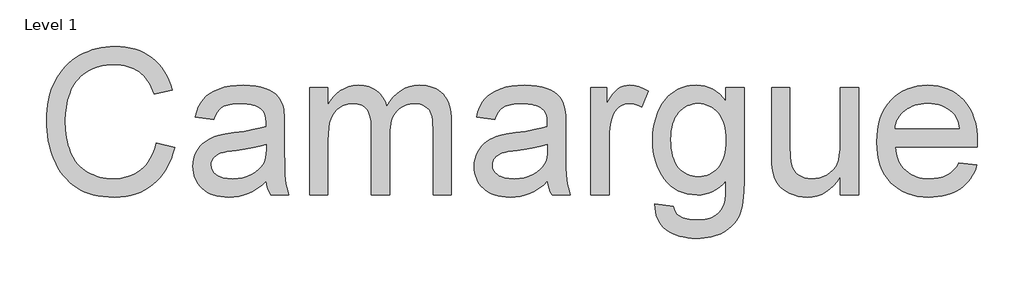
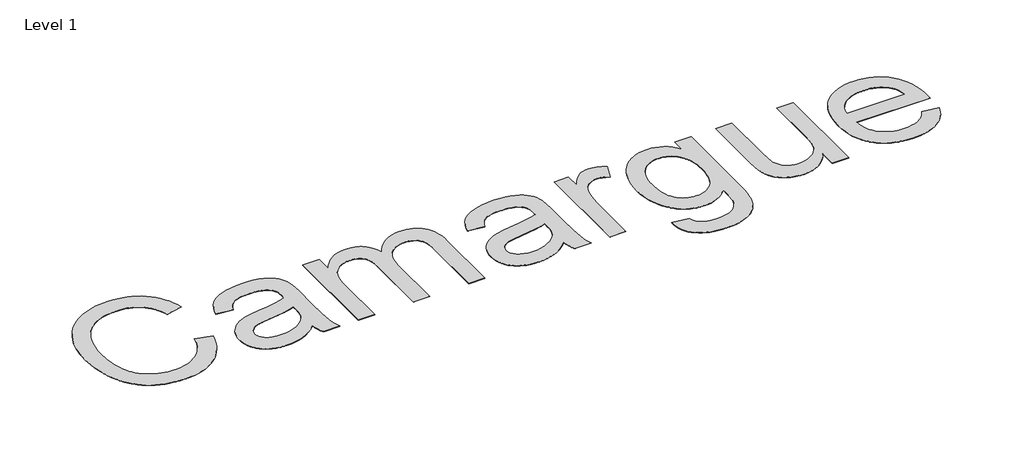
# One storey, part 45 of 69: 1 proxy.
"""IFC4 building model written with IfcOpenShell, lengths in millimetres."""

import ifcopenshell
import ifcopenshell.guid

model = None  # the IFC model being written
_history = None  # IfcOwnerHistory: only IFC2X3 demands one
_inside = {}  # id of a spatial element -> (the spatial element, [elements in it])
_under = {}  # id of a project, library or spatial element -> (it, [spatial elements below it])
_declared = {}  # id of a project -> (the project, [libraries it declares])
_typed = {}  # id of a type object -> (the type object, [elements of that type])
_made_of = {}  # id of a material, layer set ... -> (it, [elements and type objects made of it])


def new_model(schema):
    """Start an empty IFC model of exactly this schema.

    Asked for "IFC4X3", IfcOpenShell would pick the latest addendum, in which some entities
    have other attributes; the version numbers below select the first issue.
    IFC2X3 requires an IfcOwnerHistory on every rooted entity: one is made here for all.
    """
    global model, _history
    if schema == "IFC4X3":
        model = ifcopenshell.file(schema_version=(4, 3, 0, 0))
    else:
        model = ifcopenshell.file(schema=schema)
    _inside.clear()
    _under.clear()
    _declared.clear()
    _typed.clear()
    _made_of.clear()
    _history = None
    if model.schema == "IFC2X3":
        org = make("IfcOrganization", Name="unknown")
        user = make(
            "IfcPersonAndOrganization",
            ThePerson=make("IfcPerson", FamilyName="unknown"),
            TheOrganization=org,
        )
        app = make(
            "IfcApplication",
            ApplicationDeveloper=org,
            Version="unknown",
            ApplicationFullName="unknown",
            ApplicationIdentifier="unknown",
        )
        _history = make(
            "IfcOwnerHistory",
            OwningUser=user,
            OwningApplication=app,
            ChangeAction="ADDED",
            CreationDate=0,
        )
    return model


def make(cls, **values):
    """One entity of the class cls with the attributes given. An attribute that is None is left unset."""
    return model.create_entity(
        cls, **{name: value for name, value in values.items() if value is not None}
    )


def rooted(cls, **values):
    """An entity with a GlobalId (a new one), such as an element, a storey or a relation."""
    return make(cls, GlobalId=ifcopenshell.guid.new(), OwnerHistory=_history, **values)


def si_unit(unit_type, name, prefix=None):
    """IfcSIUnit, for example si_unit("LENGTHUNIT", "METRE", prefix="MILLI")."""
    return make("IfcSIUnit", UnitType=unit_type, Prefix=prefix, Name=name)


def assignment(units):
    """IfcUnitAssignment: the units of a project."""
    return None if units is None else make("IfcUnitAssignment", Units=units)


def point(xyz):
    """IfcCartesianPoint."""
    return None if xyz is None else make("IfcCartesianPoint", Coordinates=xyz)


def direction(xyz):
    """IfcDirection."""
    return None if xyz is None else make("IfcDirection", DirectionRatios=xyz)


def frame(location, z_axis=None, x_axis=None):
    """IfcAxis2Placement3D, a coordinate frame: its origin and axes. An axis left out is left unset."""
    return make(
        "IfcAxis2Placement3D",
        Location=point(location),
        Axis=direction(z_axis),
        RefDirection=direction(x_axis),
    )


def origin():
    """The frame at (0, 0, 0) with its axes left unset."""
    return frame((0.0, 0.0, 0.0))


def origin_with_axes():
    """The frame at (0, 0, 0) with the z axis (0, 0, 1) and the x axis (1, 0, 0) written out."""
    return frame((0.0, 0.0, 0.0), z_axis=(0.0, 0.0, 1.0), x_axis=(1.0, 0.0, 0.0))


def place(relative_to, where):
    """IfcLocalPlacement: puts the frame where relative to a parent placement (None: the world)."""
    return make(
        "IfcLocalPlacement", PlacementRelTo=relative_to, RelativePlacement=where
    )


def context(
    kind, dimensions, precision=None, world=None, true_north=None, identifier=None
):
    """IfcGeometricRepresentationContext, for example the 3D "Model" context."""
    return make(
        "IfcGeometricRepresentationContext",
        ContextIdentifier=identifier,
        ContextType=kind,
        CoordinateSpaceDimension=dimensions,
        Precision=precision,
        WorldCoordinateSystem=world,
        TrueNorth=true_north,
    )


def project(units=None, contexts=None):
    """IfcProject with its units and contexts."""
    return rooted(
        "IfcProject",
        Name="project",
        RepresentationContexts=contexts,
        UnitsInContext=assignment(units),
    )


def spatial(cls, under=None, at=None, **own):
    """A site, building, storey or space (cls), placed at a placement, below another one or the project."""
    s = rooted(cls, ObjectPlacement=at, **own)
    if under is not None:
        _under.setdefault(under.id(), (under, []))[1].append(s)
    return s


def polyline(points):
    """IfcPolyline through the points."""
    return make("IfcPolyline", Points=[point(p) for p in points])


def outline(outer, holes=None, kind="AREA"):
    """IfcArbitraryClosedProfileDef: a profile drawn as a closed curve; with holes, ...WithVoids."""
    if holes is None:
        return make("IfcArbitraryClosedProfileDef", ProfileType=kind, OuterCurve=outer)
    return make(
        "IfcArbitraryProfileDefWithVoids",
        ProfileType=kind,
        OuterCurve=outer,
        InnerCurves=holes,
    )


def extrude(swept, where, along, depth):
    """IfcExtrudedAreaSolid: the profile swept, set in the frame where, extruded along a direction by depth."""
    return make(
        "IfcExtrudedAreaSolid",
        SweptArea=swept,
        Position=where,
        ExtrudedDirection=direction(along),
        Depth=depth,
    )


def shape(context_of_items, identifier, shape_type, items):
    """IfcShapeRepresentation: the items that make up one representation, for example the "Body"."""
    return make(
        "IfcShapeRepresentation",
        ContextOfItems=context_of_items,
        RepresentationIdentifier=identifier,
        RepresentationType=shape_type,
        Items=items,
    )


def made_of(thing, what):
    """Note that an element or type object is made of a material, layer set ...; save() writes the relation."""
    if what is not None:
        _made_of.setdefault(what.id(), (what, []))[1].append(thing)
    return thing


def element(
    cls,
    number,
    at=None,
    inside=None,
    cuts=None,
    type_object=None,
    material=None,
    context=None,
    identifier="Body",
    shape_type=None,
    held_by="IfcProductDefinitionShape",
    body=None,
    shapes=None,
    **own,
):
    """One element of the class cls, such as IfcWall. Its Tag is "e" and its number.

    at: its placement. inside: the storey or other place that contains it. cuts: it is an
    opening in that element (IfcRelVoidsElement). A single representation is given by context,
    identifier, shape_type and body (its items); several are given by shapes. held_by: the class
    of the entity that holds the representations. save() writes the other relations.
    """
    e = rooted(cls, Tag="e%d" % number, ObjectPlacement=at, **own)
    if body is not None:
        shapes = [shape(context, identifier, shape_type, body)]
    if shapes is not None:
        e.Representation = make(held_by, Representations=shapes)
    if inside is not None:
        _inside.setdefault(inside.id(), (inside, []))[1].append(e)
    if cuts is not None:
        rooted(
            "IfcRelVoidsElement", RelatingBuildingElement=cuts, RelatedOpeningElement=e
        )
    if type_object is not None:
        _typed.setdefault(type_object.id(), (type_object, []))[1].append(e)
    return made_of(e, material)


def aggregate(whole, parts):
    """IfcRelAggregates: a whole, such as a stair, and the parts it consists of."""
    return rooted("IfcRelAggregates", RelatingObject=whole, RelatedObjects=parts)


def save(model, path):
    """Write the relations noted so far, then the file.

    IfcRelAggregates (storeys below a building ...), IfcRelContainedInSpatialStructure (elements
    in a storey), IfcRelDefinesByType, IfcRelAssociatesMaterial and IfcRelDeclares: one each for
    every whole, place, type object, material and project.
    """
    for whole, parts in _under.values():
        aggregate(whole, parts)
    for where, things in _inside.values():
        rooted(
            "IfcRelContainedInSpatialStructure",
            RelatedElements=things,
            RelatingStructure=where,
        )
    for kind, things in _typed.values():
        rooted("IfcRelDefinesByType", RelatedObjects=things, RelatingType=kind)
    for what, things in _made_of.values():
        rooted("IfcRelAssociatesMaterial", RelatedObjects=things, RelatingMaterial=what)
    for by, libraries in _declared.values():
        rooted("IfcRelDeclares", RelatingContext=by, RelatedDefinitions=libraries)
    model.write(path)


model = new_model("IFC4")

# Units and contexts
model_context = context("Model", 3, world=origin())
ifc_project = project(units=[si_unit("LENGTHUNIT", "METRE", prefix="MILLI")], contexts=[model_context])

# Site, building, storey
site = spatial("IfcSite", under=ifc_project)
building = spatial("IfcBuilding", under=site)
storey = spatial("IfcBuildingStorey", under=building, Name="Level 1", Elevation=0.0)

# Proxy
placement = place(None, origin())
element("IfcBuildingElementProxy", 1, Name="2500 mm Arial", ObjectType="2500 mm Arial", at=placement, inside=storey, context=model_context, shape_type="SweptSolid", body=[
    extrude(outline(polyline([(-13949.8281508, 77634.6101856), (-13635.9021816, 77553.6761467), (-13664.3842954, 77452.9828209), (-13698.0205893, 77358.4496025), (-13736.8110632, 77270.0764914), (-13780.7557172, 77187.8634877), (-13829.8545512, 77111.8105914), (-13884.1075652, 77041.9178025), (-13943.5147593, 76978.1851209), (-14008.0761334, 76920.6125467), (-14077.0923285, 76869.5258087), (-14149.8639857, 76825.2506357), (-14226.3911049, 76787.7870279), (-14306.6736861, 76757.1349851), (-14390.7117294, 76733.2945073), (-14478.5052347, 76716.2655947), (-14570.054202, 76706.0482471), (-14665.3586314, 76702.6424645), (-14763.4173856, 76705.2195545), (-14856.7913925, 76712.9508246), (-14945.4806522, 76725.8362747), (-15029.4851645, 76743.8759048), (-15108.8049296, 76767.069715), (-15183.4399474, 76795.4177052), (-15253.3902179, 76828.9198754), (-15318.6557412, 76867.5762257), (-15379.7011597, 76911.1185087), (-15436.9911163, 76959.2784772), (-15490.5256108, 77012.0561311), (-15540.3046433, 77069.4514705), (-15586.3282137, 77131.4644954), (-15628.5963221, 77198.0952057), (-15667.1089685, 77269.3436015), (-15701.8661528, 77345.2096828), (-15732.6906403, 77424.1031263), (-15759.4051961, 77504.4336088), (-15782.0098203, 77586.2011304), (-15800.5045128, 77669.405691), (-15814.8892736, 77754.0472907), (-15825.1641028, 77840.1259294), (-15831.3290003, 77927.6416072), (-15833.3839661, 78016.594324), (-15831.060753, 78112.8280386), (-15824.0911136, 78205.9385884), (-15812.475048, 78295.9259733), (-15796.2125562, 78382.7901933), (-15775.3036381, 78466.5312485), (-15749.7482937, 78547.1491389), (-15719.5465232, 78624.6438644), (-15684.6983264, 78699.015425), (-15645.5677532, 78769.6363138), (-15602.5188536, 78835.8790235), (-15555.5516275, 78897.7435544), (-15504.666075, 78955.2299062), (-15449.862196, 79008.3380792), (-15391.1399905, 79057.0680731), (-15328.4994586, 79101.4198882), (-15261.9406002, 79141.3935242), (-15192.5603552, 79176.8165366), (-15121.4556633, 79207.5164807), (-15048.6265246, 79233.4933565), (-14974.072939, 79254.747164), (-14897.7949066, 79271.2779031), (-14819.7924273, 79283.0855739), (-14740.0655012, 79290.1701764), (-14658.6141282, 79292.5317106), (-14566.9741483, 79289.4756075), (-14479.0608898, 79280.3072984), (-14394.8743525, 79265.0267833), (-14314.4145364, 79243.634062), (-14237.6814416, 79216.1291347), (-14164.6750681, 79182.5120014), (-14095.3954158, 79142.782662), (-14029.8424847, 79096.9411165), (-13968.57193, 79045.5526003), (-13912.1394068, 78989.1823487), (-13860.544915, 78927.8303618), (-13813.7884546, 78861.4966396), (-13771.8700257, 78790.1811819), (-13734.7896283, 78713.883989), (-13702.5472623, 78632.6050607), (-13675.1429277, 78546.344397), (-13989.0688969, 78471.5417247), (-14012.5405346, 78535.5139128), (-14038.50304, 78594.9929588), (-14066.9564131, 78649.9788627), (-14097.9006538, 78700.4716246), (-14131.3357623, 78746.4712444), (-14167.2617383, 78787.9777221), (-14205.6785821, 78824.9910577), (-14246.5862936, 78857.5112513), (-14290.0998358, 78885.8927724), (-14336.334172, 78910.4900907), (-14385.2893021, 78931.3032062), (-14436.9652261, 78948.3321188), (-14491.361944, 78961.5768287), (-14548.4794559, 78971.0373357), (-14608.3177616, 78976.7136399), (-14670.8768613, 78978.6057413), (-14742.7958753, 78976.5076643), (-14811.7066876, 78970.2134333), (-14877.6092981, 78959.7230483), (-14940.503707, 78945.0365093), (-15000.389914, 78926.1538163), (-15057.2679194, 78903.0749692), (-15111.137723, 78875.7999682), (-15161.9993249, 78844.3288131), (-15209.5222061, 78809.322542), (-15253.3758475, 78771.4421928), (-15293.5602493, 78730.6877655), (-15330.0754114, 78687.0592602), (-15362.9213338, 78640.5566767), (-15392.0980166, 78591.1800152), (-15417.6054596, 78538.9292756), (-15439.4436629, 78483.8044578), (-15474.449934, 78369.7993604), (-15499.4544134, 78254.031495), (-15514.457101, 78136.5008618), (-15519.4579969, 78017.2074606), (-15513.537396, 77867.2955476), (-15506.1366449, 77796.018411), (-15495.7755934, 77727.1938211), (-15482.4542415, 77660.8217778), (-15466.1725891, 77596.9022811), (-15446.9306363, 77535.4353311), (-15424.7283831, 77476.4209277), (-15399.3981749, 77420.4578372), (-15370.7723572, 77368.1448259), (-15338.8509299, 77319.4818938), (-15303.633893, 77274.4690408), (-15265.1212467, 77233.106267), (-15223.3129908, 77195.3935723), (-15178.2091253, 77161.3309569), (-15129.8096503, 77130.9184206), (-15079.2498266, 77104.1176424), (-15027.6649151, 77080.8903013), (-14975.0549157, 77061.2363973), (-14921.4198285, 77045.1559304), (-14866.7596534, 77032.6489006), (-14811.0743904, 77023.7153079), (-14754.3640396, 77018.3551523), (-14696.628601, 77016.5684337), (-14627.0232198, 77019.0018199), (-14560.1482129, 77026.3019782), (-14496.0035801, 77038.4689088), (-14434.5893215, 77055.5026116), (-14375.9054371, 77077.4030866), (-14319.9519269, 77104.1703338), (-14266.7287908, 77135.8043533), (-14216.236029, 77172.305145), (-14169.0867779, 77213.5960669), (-14125.8941744, 77259.6004768), (-14086.6582184, 77310.3183748), (-14051.3789099, 77365.7497608), (-14020.0562488, 77425.8946349), (-13992.6902353, 77490.7529971), (-13969.2808693, 77560.3248473), (-13949.8281508, 77634.6101856)])), origin_with_axes(), (0.0, 0.0, 1.0), 5.0),
    extrude(outline(polyline([(-12066.2723355, 76977.3276876), (-12140.7109579, 76907.4684295), (-12216.2608906, 76848.7222734), (-12292.9221334, 76801.0892193), (-12370.6946865, 76764.569267), (-12450.4599337, 76737.4762909), (-12533.0992589, 76718.1241652), (-12618.6126623, 76706.5128897), (-12707.0001437, 76702.6424645), (-12779.038911, 76704.9704678), (-12846.7761414, 76711.9544775), (-12910.2118349, 76723.5944938), (-12969.3459916, 76739.8905165), (-13024.1786113, 76760.8425458), (-13074.7096942, 76786.4505815), (-13120.9392403, 76816.7146238), (-13162.8672494, 76851.6346726), (-13200.1584126, 76890.1760597), (-13232.4774207, 76931.3041171), (-13259.8242737, 76975.0188449), (-13282.1989716, 77021.3202428), (-13299.6015144, 77070.2083111), (-13312.0319022, 77121.6830497), (-13319.4901348, 77175.7444585), (-13321.9762123, 77232.3925376), (-13318.2207503, 77298.9561861), (-13306.9543642, 77362.5307934), (-13288.177054, 77423.1163595), (-13261.8888198, 77480.7128843), (-13229.4883795, 77534.0557736), (-13192.3744511, 77581.880433), (-13150.5470347, 77624.1868624), (-13104.0061302, 77660.975062), (-13053.5948006, 77692.9348103), (-13000.1561086, 77720.7558862), (-12943.6900545, 77744.4382896), (-12884.1966381, 77763.9820206), (-12771.2262087, 77788.0476345), (-12612.5770983, 77811.1935433), (-12439.9024868, 77834.9525888), (-12291.6000575, 77860.8576127), (-12167.6698104, 77888.9086148), (-12068.1117455, 77919.1055952), (-12066.2723355, 77989.0031743), (-12071.6756023, 78065.1087621), (-12078.4296858, 78098.6205126), (-12087.8854027, 78129.1049008), (-12100.042753, 78156.5619268), (-12114.9017367, 78180.9915906), (-12132.4623538, 78202.393892), (-12152.7246043, 78220.7688313), (-12183.630524, 78242.0370091), (-12218.1003006, 78260.4694299), (-12256.1339339, 78276.0660937), (-12297.7314241, 78288.8270004), (-12342.8927711, 78298.7521501), (-12391.617975, 78305.8415427), (-12499.7599531, 78311.5130568), (-12600.3143651, 78307.7384342), (-12686.766634, 78296.4145665), (-12759.1167597, 78277.5414538), (-12790.0035189, 78265.2739305), (-12817.3647423, 78251.1190959), (-12842.1297151, 78234.559616), (-12865.2277227, 78215.0781567), (-12906.422842, 78167.3492999), (-12940.9501001, 78107.9325256), (-12968.809497, 78036.8278337), (-13282.7354662, 78076.0685798), (-13258.842297, 78166.506237), (-13228.2429457, 78247.7468443), (-13190.9374121, 78319.7904017), (-13146.9256963, 78382.6369092), (-13094.3109068, 78437.5509612), (-13031.196152, 78485.797152), (-12957.5814319, 78527.3754816), (-12873.4667466, 78562.2859501), (-12780.5573823, 78589.9154208), (-12680.5586253, 78609.650757), (-12573.4704758, 78621.4919587), (-12459.2929337, 78625.439026), (-12347.6829013, 78621.9518112), (-12247.0710077, 78611.490167), (-12157.4572529, 78594.0540933), (-12078.841637, 78569.64359), (-12010.5727021, 78539.9639437), (-11951.9989907, 78506.7204405), (-11903.1205027, 78469.9130804), (-11863.9372381, 78429.5418635), (-11832.169095, 78384.6104428), (-11805.5359714, 78334.122471), (-11784.0378673, 78278.0779483), (-11767.6747827, 78216.4768747), (-11760.9686005, 78169.4186361), (-11756.1784704, 78107.9516861), (-11752.3463663, 77941.7916516), (-11752.3463663, 77551.2236001), (-11748.360978, 77211.0093966), (-11743.3792426, 77091.5435508), (-11736.4048131, 77005.8385422), (-11726.5179845, 76937.7228915), (-11712.7990518, 76871.0251194), (-11695.2480149, 76805.7452258), (-11673.864874, 76741.8832107), (-11987.7908432, 76741.8832107), (-12015.6885611, 76794.306395), (-12038.0680492, 76851.0215359), (-12054.9293073, 76912.0286334), (-12066.2723355, 76977.3276876)]), holes=[polyline([(-12066.2723355, 77605.179626), (-12161.1552334, 77578.0100078), (-12277.191346, 77552.9097259), (-12414.3806734, 77529.8787801), (-12572.7232155, 77508.9171706), (-12735.5876405, 77484.8515568), (-12796.154046, 77471.7840817), (-12842.8099136, 77458.026828), (-12880.2304103, 77442.27688), (-12913.0907031, 77423.2313226), (-12941.390792, 77400.8901556), (-12965.130677, 77375.253379), (-12983.9079872, 77347.2406979), (-12997.3203516, 77317.7718173), (-13005.3677702, 77286.8467371), (-13008.0502431, 77254.4654573), (-13002.2062844, 77205.6827719), (-12984.674408, 77161.115401), (-12955.4546141, 77120.7633447), (-12914.5469027, 77084.6266028), (-12889.8058805, 77068.6754695), (-12862.3344841, 77054.8511539), (-12799.2005688, 77033.582976), (-12725.1451567, 77020.8220693), (-12640.168248, 77016.5684337), (-12553.4094108, 77021.2627613), (-12471.5556668, 77035.3457439), (-12394.6070162, 77058.8173816), (-12322.5634588, 77091.6776744), (-12257.570973, 77131.2058284), (-12201.775537, 77174.6810496), (-12155.177151, 77222.103338), (-12117.7758148, 77273.4726937), (-12096.0477845, 77319.4579431), (-12080.5277628, 77375.253379), (-12071.2157498, 77440.8590015), (-12068.1117455, 77516.2748105), (-12066.2723355, 77605.179626)])]), origin_with_axes(), (0.0, 0.0, 1.0), 5.0),
    extrude(outline(polyline([(-11320.6981586, 76741.8832107), (-11320.6981586, 78586.1982798), (-11006.7721894, 78586.1982798), (-11006.7721894, 78282.6956338), (-10962.9329183, 78356.1762302), (-10912.3491439, 78422.1075816), (-10855.0208664, 78480.4896878), (-10790.9480855, 78531.3225489), (-10721.1654696, 78572.4985076), (-10646.7076866, 78601.9099067), (-10567.5747366, 78619.5567462), (-10483.7666196, 78625.439026), (-10392.1410101, 78619.441783), (-10349.5759137, 78611.9452294), (-10309.175956, 78601.4500542), (-10270.9411372, 78587.9562576), (-10234.8714572, 78571.4638395), (-10200.966916, 78551.9727999), (-10169.2275137, 78529.4831389), (-10139.7011515, 78504.2918445), (-10112.4357307, 78476.6959047), (-10087.4312513, 78446.6953196), (-10064.6877134, 78414.2900892), (-10025.9834618, 78342.2656923), (-9996.3229759, 78260.6227141), (-9941.1215162, 78346.1265372), (-9881.896347, 78420.2298505), (-9818.6474686, 78482.9326541), (-9751.3748808, 78534.234948), (-9680.0785837, 78574.1367321), (-9604.7585773, 78602.6380065), (-9525.4148616, 78619.7387711), (-9442.0474365, 78625.439026), (-9377.2896671, 78623.0679116), (-9316.3735821, 78615.9545683), (-9259.2991814, 78604.0989962), (-9206.0664651, 78587.5011952), (-9156.6754331, 78566.1611654), (-9111.1260856, 78540.0789068), (-9069.4184224, 78509.2544193), (-9031.5524436, 78473.687703), (-8997.853878, 78433.1871526), (-8968.6484545, 78387.561163), (-8943.9361731, 78336.8097341), (-8923.7170338, 78280.9328659), (-8907.9910365, 78219.9305585), (-8896.7581813, 78153.8028119), (-8890.0184682, 78082.5496259), (-8887.7718971, 78006.1710008), (-8887.7718971, 76741.8832107), (-9201.6978664, 76741.8832107), (-9201.6978664, 77871.2809359), (-9203.5181158, 77955.9512763), (-9208.9788642, 78027.8607101), (-9218.0801115, 78087.0092371), (-9230.8218577, 78133.3968574), (-9248.3345735, 78171.4688118), (-9271.7487296, 78205.6703411), (-9301.0643261, 78236.0014451), (-9336.2813629, 78262.4621241), (-9376.1160852, 78283.9219071), (-9419.2847381, 78299.2503236), (-9465.7873216, 78308.4473735), (-9515.6238356, 78311.5130568), (-9561.0869608, 78309.5491034), (-9604.5861326, 78303.6572433), (-9646.1213511, 78293.8374765), (-9685.6926163, 78280.089803), (-9723.299928, 78262.4142228), (-9758.9432865, 78240.8107358), (-9792.6226915, 78215.2793421), (-9824.3381432, 78185.8200417), (-9853.150776, 78152.0304637), (-9878.1217245, 78113.5082371), (-9899.2509885, 78070.2533619), (-9916.5385682, 78022.2658381), (-9929.9844636, 77969.5456657), (-9939.5886745, 77912.0928447), (-9945.3512011, 77849.9073752), (-9947.2720433, 77782.989257), (-9947.2720433, 76741.8832107), (-10261.1980125, 76741.8832107), (-10261.1980125, 77906.2297254), (-10265.7390559, 78001.3425496), (-10279.362186, 78083.7327881), (-10302.0674029, 78153.4004409), (-10316.8257939, 78183.4632977), (-10333.8547065, 78210.3455081), (-10353.4702895, 78234.0566523), (-10375.9886913, 78254.6063106), (-10401.409912, 78271.9944831), (-10429.7339515, 78286.2211696), (-10460.9608099, 78297.2863702), (-10495.0904872, 78305.190085), (-10532.1229834, 78309.9323138), (-10572.0582984, 78311.5130568), (-10633.7168536, 78307.2977422), (-10692.9995043, 78294.6517986), (-10749.9062504, 78273.575226), (-10804.437092, 78244.0680243), (-10854.1011614, 78206.4367619), (-10896.4075908, 78160.9880071), (-10931.3563804, 78107.7217599), (-10958.94753, 78046.6380202), (-10979.8708185, 77974.4794997), (-10994.8160245, 77887.9889098), (-11003.7831482, 77787.1662505), (-11006.7721894, 77672.0115218), (-11006.7721894, 76741.8832107), (-11320.6981586, 76741.8832107)])), origin_with_axes(), (0.0, 0.0, 1.0), 5.0),
    extrude(outline(polyline([(-7239.6605588, 76977.3276876), (-7314.0991812, 76907.4684295), (-7389.6491139, 76848.7222734), (-7466.3103567, 76801.0892193), (-7544.0829098, 76764.569267), (-7623.8481569, 76737.4762909), (-7706.4874822, 76718.1241652), (-7792.0008856, 76706.5128897), (-7880.388367, 76702.6424645), (-7952.4271343, 76704.9704678), (-8020.1643647, 76711.9544775), (-8083.6000582, 76723.5944938), (-8142.7342148, 76739.8905165), (-8197.5668346, 76760.8425458), (-8248.0979175, 76786.4505815), (-8294.3274636, 76816.7146238), (-8336.2554727, 76851.6346726), (-8373.5466359, 76890.1760597), (-8405.865644, 76931.3041171), (-8433.212497, 76975.0188449), (-8455.5871949, 77021.3202428), (-8472.9897377, 77070.2083111), (-8485.4201254, 77121.6830497), (-8492.8783581, 77175.7444585), (-8495.3644356, 77232.3925376), (-8491.6089736, 77298.9561861), (-8480.3425875, 77362.5307934), (-8461.5652773, 77423.1163595), (-8435.2770431, 77480.7128843), (-8402.8766028, 77534.0557736), (-8365.7626744, 77581.880433), (-8323.935258, 77624.1868624), (-8277.3943535, 77660.975062), (-8226.9830238, 77692.9348103), (-8173.5443319, 77720.7558862), (-8117.0782778, 77744.4382896), (-8057.5848614, 77763.9820206), (-7944.614432, 77788.0476345), (-7785.9653216, 77811.1935433), (-7613.2907101, 77834.9525888), (-7464.9882808, 77860.8576127), (-7341.0580337, 77888.9086148), (-7241.4999687, 77919.1055952), (-7239.6605588, 77989.0031743), (-7245.0638256, 78065.1087621), (-7251.8179091, 78098.6205126), (-7261.273626, 78129.1049008), (-7273.4309763, 78156.5619268), (-7288.28996, 78180.9915906), (-7305.8505771, 78202.393892), (-7326.1128276, 78220.7688313), (-7357.0187473, 78242.0370091), (-7391.4885239, 78260.4694299), (-7429.5221572, 78276.0660937), (-7471.1196474, 78288.8270004), (-7516.2809944, 78298.7521501), (-7565.0061982, 78305.8415427), (-7673.1481764, 78311.5130568), (-7773.7025884, 78307.7384342), (-7860.1548573, 78296.4145665), (-7932.504983, 78277.5414538), (-7963.3917422, 78265.2739305), (-7990.7529656, 78251.1190959), (-8015.5179384, 78234.559616), (-8038.615946, 78215.0781567), (-8079.8110652, 78167.3492999), (-8114.3383233, 78107.9325256), (-8142.1977203, 78036.8278337), (-8456.1236895, 78076.0685798), (-8432.2305203, 78166.506237), (-8401.6311689, 78247.7468443), (-8364.3256354, 78319.7904017), (-8320.3139196, 78382.6369092), (-8267.6991301, 78437.5509612), (-8204.5843753, 78485.797152), (-8130.9696552, 78527.3754816), (-8046.8549698, 78562.2859501), (-7953.9456055, 78589.9154208), (-7853.9468486, 78609.650757), (-7746.8586991, 78621.4919587), (-7632.6811569, 78625.439026), (-7521.0711245, 78621.9518112), (-7420.459231, 78611.490167), (-7330.8454762, 78594.0540933), (-7252.2298603, 78569.64359), (-7183.9609254, 78539.9639437), (-7125.387214, 78506.7204405), (-7076.508726, 78469.9130804), (-7037.3254614, 78429.5418635), (-7005.5573183, 78384.6104428), (-6978.9241947, 78334.122471), (-6957.4260906, 78278.0779483), (-6941.063006, 78216.4768747), (-6934.3568238, 78169.4186361), (-6929.5666937, 78107.9516861), (-6925.7345895, 77941.7916516), (-6925.7345895, 77551.2236001), (-6921.7492013, 77211.0093966), (-6916.7674659, 77091.5435508), (-6909.7930364, 77005.8385422), (-6899.9062078, 76937.7228915), (-6886.1872751, 76871.0251194), (-6868.6362382, 76805.7452258), (-6847.2530972, 76741.8832107), (-7161.1790665, 76741.8832107), (-7189.0767844, 76794.306395), (-7211.4562725, 76851.0215359), (-7228.3175306, 76912.0286334), (-7239.6605588, 76977.3276876)]), holes=[polyline([(-7239.6605588, 77605.179626), (-7334.5434567, 77578.0100078), (-7450.5795693, 77552.9097259), (-7587.7688967, 77529.8787801), (-7746.1114388, 77508.9171706), (-7908.9758637, 77484.8515568), (-7969.5422693, 77471.7840817), (-8016.1981369, 77458.026828), (-8053.6186336, 77442.27688), (-8086.4789264, 77423.2313226), (-8114.7790153, 77400.8901556), (-8138.5189003, 77375.253379), (-8157.2962105, 77347.2406979), (-8170.7085749, 77317.7718173), (-8178.7559935, 77286.8467371), (-8181.4384664, 77254.4654573), (-8175.5945076, 77205.6827719), (-8158.0626313, 77161.115401), (-8128.8428374, 77120.7633447), (-8087.935126, 77084.6266028), (-8063.1941038, 77068.6754695), (-8035.7227074, 77054.8511539), (-7972.5887921, 77033.582976), (-7898.53338, 77020.8220693), (-7813.5564712, 77016.5684337), (-7726.797634, 77021.2627613), (-7644.9438901, 77035.3457439), (-7567.9952395, 77058.8173816), (-7495.9516821, 77091.6776744), (-7430.9591962, 77131.2058284), (-7375.1637603, 77174.6810496), (-7328.5653743, 77222.103338), (-7291.1640381, 77273.4726937), (-7269.4360077, 77319.4579431), (-7253.9159861, 77375.253379), (-7244.6039731, 77440.8590015), (-7241.4999687, 77516.2748105), (-7239.6605588, 77605.179626)])]), origin_with_axes(), (0.0, 0.0, 1.0), 5.0),
    extrude(outline(polyline([(-6494.0863819, 76741.8832107), (-6494.0863819, 78586.1982798), (-6219.4011588, 78586.1982798), (-6219.4011588, 78313.3524667), (-6167.6677532, 78400.5711564), (-6117.9270418, 78471.5417247), (-6070.1790245, 78526.2641714), (-6024.4237014, 78564.7384968), (-5978.5917361, 78591.2949783), (-5930.6137926, 78610.2638937), (-5880.4898707, 78621.6452429), (-5828.2199706, 78625.439026), (-5750.351615, 78619.3843015), (-5671.8701226, 78601.220128), (-5592.7754937, 78570.9465054), (-5513.0677281, 78528.5634339), (-5617.9140967, 78247.1337076), (-5673.096396, 78275.2996729), (-5728.2786952, 78295.4182195), (-5783.4609945, 78307.4893474), (-5838.6432938, 78311.5130568), (-5886.755361, 78307.6426316), (-5932.3765605, 78296.0313561), (-5975.5068923, 78276.6792303), (-6016.1463565, 78249.5862542), (-6052.7621113, 78215.6338118), (-6083.8213152, 78175.7032869), (-6109.3239681, 78129.7946796), (-6129.27007, 78077.9079898), (-6151.5345949, 77992.2221418), (-6167.437827, 77902.5509055), (-6176.9797662, 77808.8942809), (-6180.1604126, 77711.252268), (-6180.1604126, 76741.8832107), (-6494.0863819, 76741.8832107)])), origin_with_axes(), (0.0, 0.0, 1.0), 5.0),
    extrude(outline(polyline([(-5395.3454896, 76584.9202261), (-5081.4195204, 76545.6794799), (-5068.1604401, 76492.7964431), (-5046.7772992, 76447.5776145), (-5017.2700975, 76410.0229942), (-4979.6388351, 76380.1325821), (-4918.7467006, 76349.5523912), (-4847.6611693, 76327.7093978), (-4766.382241, 76314.6036017), (-4674.9099157, 76310.235003), (-4576.8846924, 76315.1784173), (-4490.6623498, 76330.0086602), (-4451.9772587, 76341.1313424), (-4416.2428879, 76354.7257318), (-4383.4592371, 76370.7918283), (-4353.6263066, 76389.329632), (-4301.5096906, 76432.8623347), (-4258.5901245, 76484.3658141), (-4224.8676083, 76543.8400699), (-4200.3421419, 76611.2851024), (-4190.2637081, 76666.812291), (-4183.3275997, 76746.3284514), (-4179.5338166, 76849.8335836), (-4178.8823589, 76977.3276876), (-4229.6002569, 76922.1453883), (-4283.3455171, 76874.3207289), (-4340.1181396, 76833.8537095), (-4399.9181243, 76800.7443299), (-4462.7454713, 76774.9925902), (-4528.6001806, 76756.5984905), (-4597.482252, 76745.5620306), (-4669.3916858, 76741.8832107), (-4758.0234639, 76746.165587), (-4841.5106422, 76759.0127161), (-4919.8532207, 76780.4245978), (-4993.0511995, 76810.4012323), (-5061.1045784, 76848.9426194), (-5124.0133576, 76896.0487593), (-5181.7775371, 76951.7196518), (-5234.3971167, 77015.9552971), (-5281.3164415, 77086.178605), (-5321.9798563, 77159.8124856), (-5356.3873611, 77236.8569389), (-5384.538956, 77317.3119648), (-5406.4346409, 77401.1775634), (-5422.0744158, 77488.4537346), (-5431.4582808, 77579.1404786), (-5434.5862358, 77673.2377951), (-5428.9722032, 77802.5138275), (-5412.1301056, 77926.6931614), (-5384.059943, 78045.7757968), (-5344.7617153, 78159.7617338), (-5321.050571, 78213.8949945), (-5294.8293986, 78264.8571891), (-5266.098198, 78312.6483176), (-5234.8569692, 78357.2683799), (-5201.1057122, 78398.7173761), (-5164.844427, 78436.9953061), (-5126.0731136, 78472.1021699), (-5084.791772, 78504.0379676), (-5041.3213409, 78532.4913406), (-4995.9827591, 78557.1509306), (-4948.7760265, 78578.0167375), (-4899.7011432, 78595.0887614), (-4848.7581091, 78608.3670021), (-4795.9469242, 78617.8514598), (-4741.2675886, 78623.5421344), (-4684.7201023, 78625.439026), (-4609.6204418, 78621.1470694), (-4537.9121936, 78608.2711995), (-4469.5953574, 78586.8114165), (-4404.6699334, 78556.7677202), (-4343.1359216, 78518.1401107), (-4284.9933219, 78470.928588), (-4230.2421343, 78415.1331521), (-4178.8823589, 78350.7538029), (-4178.8823589, 78586.1982798), (-3864.9563897, 78586.1982798), (-3864.9563897, 76993.8823774), (-3870.3213354, 76794.3638765), (-3877.0275176, 76706.3739759), (-3886.4161727, 76626.2303084), (-3898.4873007, 76553.9328742), (-3913.2409015, 76489.481673), (-3930.6769753, 76432.8767051), (-3950.7955219, 76384.1179704), (-3973.8216775, 76340.4559341), (-3999.9805782, 76299.1410616), (-4029.2722241, 76260.1733528), (-4061.696615, 76223.5528079), (-4097.2537511, 76189.2794267), (-4135.9436323, 76157.3532093), (-4177.7662586, 76127.7741556), (-4222.72163, 76100.5422657), (-4270.5894005, 76076.112602), (-4321.1492242, 76054.9402268), (-4374.401101, 76037.02514), (-4430.345031, 76022.3673418), (-4488.9810141, 76010.966832), (-4550.3090504, 76002.8236108), (-4614.3291398, 75997.937678), (-4681.0412823, 75996.3090338), (-4759.8820344, 75998.6035061), (-4834.842781, 76005.4869231), (-4905.9235222, 76016.9592848), (-4973.1242581, 76033.0205912), (-5036.4449885, 76053.6708423), (-5095.8857134, 76078.910038), (-5151.446433, 76108.7381784), (-5203.1271471, 76143.1552635), (-5249.6536812, 76182.1804538), (-5289.7518607, 76225.8329098), (-5323.4216855, 76274.1126316), (-5350.6631556, 76327.019619), (-5371.4762711, 76384.5538722), (-5385.8610319, 76446.7153911), (-5393.8174381, 76513.5041757), (-5395.3454896, 76584.9202261)]), holes=[polyline([(-5120.6602665, 77694.6975782), (-5118.5669797, 77614.2760832), (-5112.287119, 77539.4782009), (-5101.8206847, 77470.3039315), (-5087.1676766, 77406.7532749), (-5068.3280947, 77348.826231), (-5045.3019391, 77296.5228), (-5018.0892097, 77249.8429817), (-4986.6899066, 77208.7867762), (-4952.1291176, 77172.9326521), (-4915.4319306, 77141.8590778), (-4876.5983455, 77115.5660535), (-4835.6283624, 77094.053579), (-4792.5219812, 77077.3216544), (-4747.279202, 77065.3702797), (-4699.9000247, 77058.1994548), (-4650.3844494, 77055.8091799), (-4601.4149489, 77058.1850844), (-4554.4477228, 77065.3127981), (-4509.4827711, 77077.1923209), (-4466.5200939, 77093.8236527), (-4425.559691, 77115.2067937), (-4386.6015625, 77141.3417438), (-4349.6457084, 77172.2285029), (-4314.6921288, 77207.8670712), (-4282.861714, 77248.5927577), (-4255.2753544, 77294.7408716), (-4231.9330502, 77346.3114127), (-4212.8348014, 77403.3043812), (-4197.9806078, 77465.719777), (-4187.3704695, 77533.5576001), (-4181.0043865, 77606.8178505), (-4178.8823589, 77685.5005283), (-4181.0666582, 77760.6816209), (-4187.6195563, 77831.1013242), (-4198.541053, 77896.7596381), (-4213.8311484, 77957.6565627), (-4233.4898425, 78013.7920978), (-4257.5171354, 78065.1662436), (-4285.9130269, 78111.7790001), (-4318.6775171, 78153.6303672), (-4354.5172708, 78190.6341225), (-4392.138953, 78222.7040439), (-4431.5425635, 78249.8401311), (-4472.7281025, 78272.0423844), (-4515.6955699, 78289.3108035), (-4560.4449658, 78301.6453887), (-4606.97629, 78309.0461397), (-4655.2895426, 78311.5130568), (-4702.8220041, 78309.0844608), (-4748.5437963, 78301.7986728), (-4792.4549194, 78289.6556929), (-4834.5553732, 78272.655521), (-4874.8451579, 78250.7981572), (-4913.3242733, 78224.0836013), (-4949.9927196, 78192.5118536), (-4984.8504967, 78156.0829138), (-5016.6809115, 78114.8734242), (-5044.267271, 78068.9600267), (-5067.6095752, 78018.3427215), (-5086.7078241, 77963.0215084), (-5101.5620176, 77902.9963876), (-5112.1721559, 77838.2673589), (-5118.5382389, 77768.8344224), (-5120.6602665, 77694.6975782)])]), origin_with_axes(), (0.0, 0.0, 1.0), 5.0),
    extrude(outline(polyline([(-2216.8450513, 76741.8832107), (-2216.8450513, 77058.8748632), (-2271.2992508, 76975.3828947), (-2330.4286173, 76903.0231888), (-2394.2331508, 76841.7957452), (-2462.7128514, 76791.7005642), (-2535.867719, 76752.7376456), (-2613.6977536, 76724.9069894), (-2696.2029552, 76708.2085958), (-2783.3833238, 76702.6424645), (-2861.1558769, 76706.5512107), (-2936.2842781, 76718.2774493), (-3008.7685275, 76737.8211803), (-3078.608625, 76765.1824037), (-3142.7197268, 76798.4450674), (-3198.0169892, 76835.6931194), (-3244.5004122, 76876.9265597), (-3282.1699956, 76922.1453883), (-3312.9609522, 76972.0010629), (-3338.8084945, 77027.1450411), (-3359.7126224, 77087.577323), (-3375.6733361, 77153.2979086), (-3383.7207547, 77206.0276613), (-3389.4689109, 77272.2464204), (-3394.0674358, 77445.1509581), (-3394.0674358, 78586.1982798), (-3080.1414666, 78586.1982798), (-3080.1414666, 77592.9168928), (-3075.3896575, 77394.2606155), (-3069.4498961, 77323.9031839), (-3061.1342302, 77272.859557), (-3042.3377595, 77216.2785398), (-3015.3789071, 77166.0971364), (-2980.2576728, 77122.3153468), (-2936.9740568, 77084.9331712), (-2886.8309745, 77055.0235985), (-2831.1313411, 77033.6596181), (-2769.8751568, 77020.8412298), (-2703.0624216, 77016.5684337), (-2634.2569922, 77020.9370324), (-2567.6358621, 77034.0428285), (-2503.1990314, 77055.885822), (-2440.9465, 77086.4660128), (-2384.2505196, 77124.5762883), (-2336.4833418, 77169.0095355), (-2297.6449666, 77219.7657545), (-2267.7353939, 77276.8449453), (-2245.470869, 77343.8876068), (-2229.5676369, 77424.534238), (-2220.0256977, 77518.7848387), (-2216.8450513, 77626.6394091), (-2216.8450513, 78586.1982798), (-1902.9190821, 78586.1982798), (-1902.9190821, 76741.8832107), (-2216.8450513, 76741.8832107)])), origin_with_axes(), (0.0, 0.0, 1.0), 5.0),
    extrude(outline(polyline([(-180.0050713, 77291.2536568), (127.7895313, 77252.0129107), (106.2578963, 77188.5436862), (80.5971691, 77128.7341212), (50.8073497, 77072.5842157), (16.8884382, 77020.0939695), (-21.1595656, 76971.2633828), (-63.3366615, 76926.0924556), (-109.6428496, 76884.5811877), (-160.0781299, 76846.7295793), (-214.3934156, 76812.9591618), (-272.33962, 76783.6914666), (-333.916743, 76758.9264937), (-399.1247847, 76738.6642432), (-467.963745, 76722.904715), (-540.433624, 76711.6479092), (-616.5344216, 76704.8938257), (-696.2661379, 76702.6424645), (-796.3127961, 76706.5272601), (-891.0519901, 76718.1816467), (-980.4837199, 76737.6056245), (-1064.6079856, 76764.7991933), (-1143.424787, 76799.7623532), (-1216.9341242, 76842.4951043), (-1285.1359972, 76892.9974464), (-1348.030406, 76951.2693796), (-1404.5060404, 77016.5540633), (-1453.4515902, 77088.0946571), (-1494.8670555, 77165.8911608), (-1528.7524361, 77249.9435744), (-1555.1077322, 77340.2518981), (-1573.9329437, 77436.8161317), (-1585.2280705, 77539.6362752), (-1588.9931128, 77648.7123288), (-1585.1897495, 77761.5007332), (-1573.7796595, 77867.7937211), (-1554.7628428, 77967.5912926), (-1528.1392995, 78060.8934475), (-1493.9090295, 78147.700186), (-1452.0720328, 78228.0115081), (-1402.6283094, 78301.8274136), (-1345.5778594, 78369.1479027), (-1282.4631046, 78429.2161347), (-1214.8264669, 78481.2752691), (-1142.6679464, 78525.3253059), (-1065.987543, 78561.3662452), (-984.7852568, 78589.3980868), (-899.0610877, 78609.4208308), (-808.8150358, 78621.4344772), (-714.047101, 78625.439026), (-622.3783804, 78621.4440574), (-534.9920361, 78609.4591518), (-451.8880682, 78589.4843091), (-373.0664767, 78561.5195293), (-298.5272615, 78525.5648124), (-228.2704227, 78481.6201585), (-162.2959602, 78429.6855675), (-100.603874, 78369.7610393), (-44.7749072, 78302.5938344), (3.6101974, 78228.9312131), (44.5514398, 78148.7731752), (78.0488199, 78062.1197209), (104.1023377, 77968.9708501), (122.7119934, 77869.3265628), (133.8777867, 77763.186859), (137.5997179, 77650.5517388), (135.7603079, 77565.9388799), (-1275.0671436, 77565.9388799), (-1268.2220476, 77501.3583452), (-1256.8838096, 77440.6673963), (-1241.0524295, 77383.866033), (-1220.7279073, 77330.9542555), (-1195.910243, 77281.9320635), (-1166.5994366, 77236.7994573), (-1132.7954882, 77195.5564368), (-1094.4983977, 77158.2030019), (-1052.7045121, 77125.0074), (-1008.4101787, 77096.2378783), (-961.6153973, 77071.8944369), (-912.320168, 77051.9770758), (-860.5244907, 77036.4857949), (-806.2283655, 77025.4205942), (-749.4317924, 77018.7814739), (-690.1347713, 77016.5684337), (-603.299292, 77020.6687851), (-523.0550318, 77032.9698394), (-449.4019907, 77053.4715964), (-382.3401687, 77082.1740562), (-321.8695657, 77119.8436397), (-267.9901818, 77167.2467676), (-220.702017, 77224.38344), (-180.0050713, 77291.2536568)]), holes=[polyline([(-1275.0671436, 77879.8648491), (-176.3262514, 77879.8648491), (-192.4594097, 77968.6930225), (-204.3485127, 78008.681029), (-218.785965, 78045.7183152), (-235.7717665, 78079.8048814), (-255.3059172, 78110.9407273), (-277.3884172, 78139.1258531), (-302.0192664, 78164.3602587), (-343.3485093, 78198.8491957), (-387.6284723, 78228.7396078), (-434.8591556, 78254.031495), (-485.040559, 78274.7248572), (-538.1726826, 78290.8196945), (-594.2555263, 78302.3160069), (-653.2890902, 78309.2137943), (-715.2733743, 78311.5130568), (-771.6100949, 78309.6784369), (-825.6571334, 78304.1745774), (-877.4144896, 78295.0014782), (-926.8821636, 78282.1591392), (-974.0601554, 78265.6475606), (-1018.948465, 78245.4667423), (-1061.5470924, 78221.6166843), (-1101.8560376, 78194.0973866), (-1138.8310522, 78163.5028254), (-1171.4278878, 78130.4269767), (-1199.6465445, 78094.8698407), (-1223.4870222, 78056.8314172), (-1242.949321, 78016.3117063), (-1258.0334408, 77973.310708), (-1268.7393817, 77927.8284222), (-1275.0671436, 77879.8648491)])]), origin_with_axes(), (0.0, 0.0, 1.0), 5.0),
])

save(model, "model.ifc")
